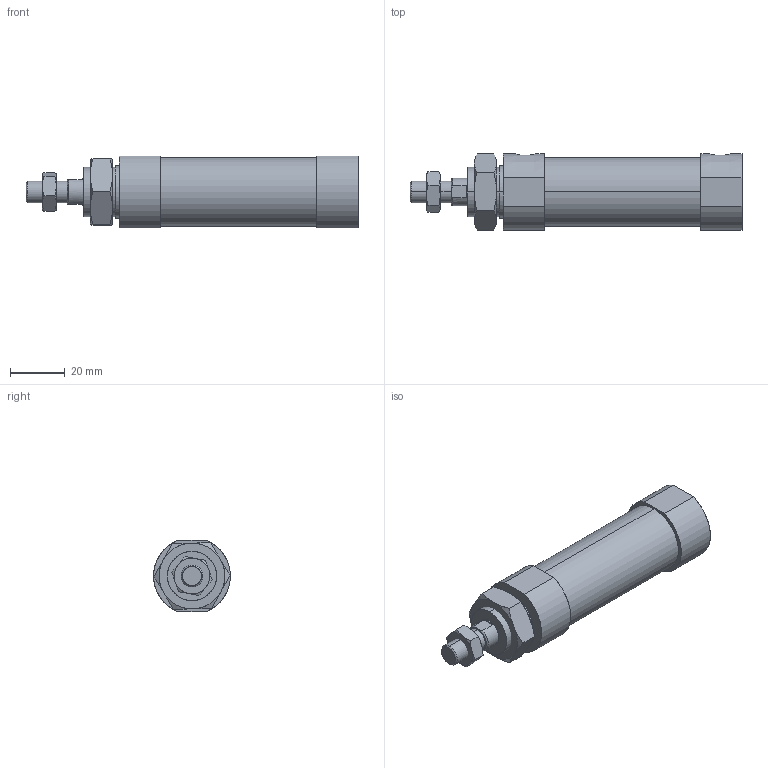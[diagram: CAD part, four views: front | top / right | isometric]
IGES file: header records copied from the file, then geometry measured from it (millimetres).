
Start section: SolidWorks IGES file using analytic representation for surfaces
Global section: file name: C:\Users\Toshiba\Desktop\JGND2-20-25-N.IGS; native system: SolidWorks 2014; preprocessor: SolidWorks 2014; author: Toshiba; date: 160804.102147; units: millimetre
Bounding box: 121 x 28 x 26 mm (x, y, z)
Surface area: 12682.4 mm2 (no closed solid volume)
Topology: 0 solids, 0 shells, 84 faces, 1468 edges, 1468 vertices
Faces by surface type: bspline 58, revolution 26
